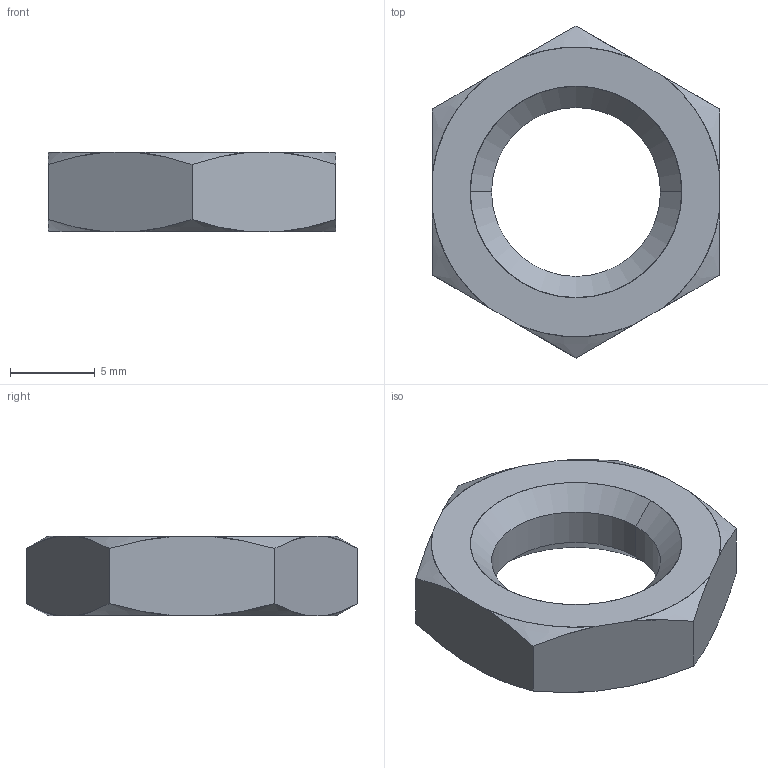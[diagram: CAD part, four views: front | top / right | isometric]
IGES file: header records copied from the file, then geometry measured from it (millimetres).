
Start section: SolidWorks IGES file using analytic representation for surfaces
Global section: file name: C:\Users\liam_\OneDrive\Desktop\Work\Mat Davis Pending 20181125\automotion\P SERIES\P0307.ZP_v2\P0307.ZP_v2_20181215_IGES\P0307.100-125-ZP.igs; native system: SolidWorks 2017; preprocessor: SolidWorks 2017; author: liam_; date: 181215.154912; units: millimetre
Bounding box: 17 x 19.63 x 4.7 mm (x, y, z)
Surface area: 705.4 mm2 (no closed solid volume)
Topology: 0 solids, 0 shells, 26 faces, 304 edges, 304 vertices
Faces by surface type: revolution 18, bspline 8
